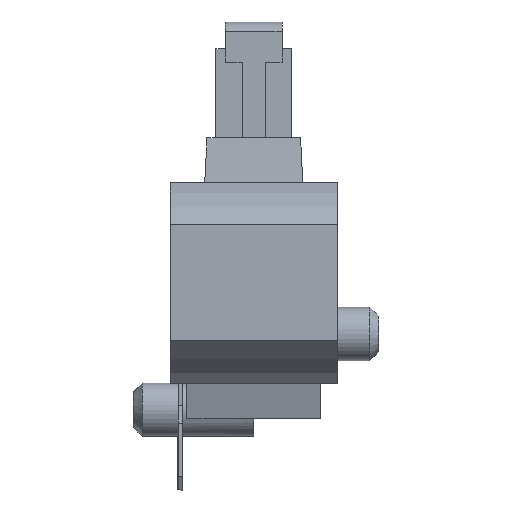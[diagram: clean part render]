
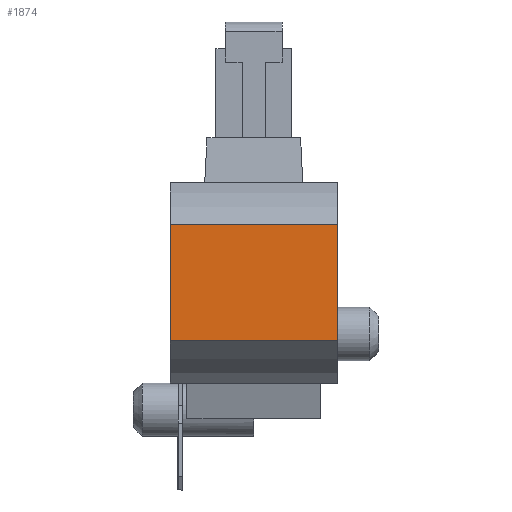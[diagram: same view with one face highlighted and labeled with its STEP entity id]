
A CAD part, left-side view. The second image highlights one B-rep face of the part: STEP entity #1874.
In plain terms, the highlighted planar face has unit normal (-1, 0, 0).
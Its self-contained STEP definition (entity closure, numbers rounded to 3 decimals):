
#1716 = ORIENTED_EDGE ( 'NONE', *, *, #7716, .F. ) ;
#1734 = EDGE_LOOP ( 'NONE', ( #1835, #1857, #1746, #1716 ) ) ;
#1746 = ORIENTED_EDGE ( 'NONE', *, *, #7715, .F. ) ;
#1835 = ORIENTED_EDGE ( 'NONE', *, *, #7722, .F. ) ;
#1857 = ORIENTED_EDGE ( 'NONE', *, *, #7683, .T. ) ;
#1874 = ADVANCED_FACE ( 'NONE', ( #6051 ), #6044, .F. ) ;
#6044 = PLANE ( 'NONE',  #6046 ) ;
#6046 = AXIS2_PLACEMENT_3D ( 'NONE', #6057, #6056, #6097 ) ;
#6051 = FACE_OUTER_BOUND ( 'NONE', #1734, .T. ) ;
#6056 = DIRECTION ( 'NONE',  ( 1., 0., 0. ) ) ;
#6057 = CARTESIAN_POINT ( 'NONE',  ( -5.575, -4.916, 5.267 ) ) ;
#6097 = DIRECTION ( 'NONE',  ( 0., 0., 1. ) ) ;
#7290 = CARTESIAN_POINT ( 'NONE',  ( -5.575, 0.375, 4.114 ) ) ;
#7291 = LINE ( 'NONE', #7290, #7300 ) ;
#7299 = DIRECTION ( 'NONE',  ( 0., 0., -1. ) ) ;
#7300 = VECTOR ( 'NONE', #7299, 1000. ) ;
#7329 = VECTOR ( 'NONE', #7367, 1000. ) ;
#7330 = CARTESIAN_POINT ( 'NONE',  ( -5.575, 0.375, 4.354 ) ) ;
#7359 = CARTESIAN_POINT ( 'NONE',  ( -5.575, -3.375, 4.354 ) ) ;
#7367 = DIRECTION ( 'NONE',  ( 0., -1., 0. ) ) ;
#7368 = CARTESIAN_POINT ( 'NONE',  ( -5.575, 0.375, 1.744 ) ) ;
#7372 = CARTESIAN_POINT ( 'NONE',  ( -5.575, -3.375, 4.354 ) ) ;
#7373 = LINE ( 'NONE', #7372, #7329 ) ;
#7375 = DIRECTION ( 'NONE',  ( 0., 0., -1. ) ) ;
#7376 = VECTOR ( 'NONE', #7375, 1000. ) ;
#7377 = CARTESIAN_POINT ( 'NONE',  ( -5.575, -3.375, 4.114 ) ) ;
#7378 = LINE ( 'NONE', #7377, #7376 ) ;
#7380 = DIRECTION ( 'NONE',  ( 0., 1., 0. ) ) ;
#7381 = VECTOR ( 'NONE', #7380, 1000. ) ;
#7382 = CARTESIAN_POINT ( 'NONE',  ( -5.575, -3.375, 1.744 ) ) ;
#7383 = LINE ( 'NONE', #7382, #7381 ) ;
#7385 = CARTESIAN_POINT ( 'NONE',  ( -5.575, -3.375, 1.744 ) ) ;
#7683 = EDGE_CURVE ( 'NONE', #7708, #7730, #7291, .T. ) ;
#7708 = VERTEX_POINT ( 'NONE', #7330 ) ;
#7709 = VERTEX_POINT ( 'NONE', #7385 ) ;
#7715 = EDGE_CURVE ( 'NONE', #7709, #7730, #7383, .T. ) ;
#7716 = EDGE_CURVE ( 'NONE', #7750, #7709, #7378, .T. ) ;
#7722 = EDGE_CURVE ( 'NONE', #7708, #7750, #7373, .T. ) ;
#7730 = VERTEX_POINT ( 'NONE', #7368 ) ;
#7750 = VERTEX_POINT ( 'NONE', #7359 ) ;
